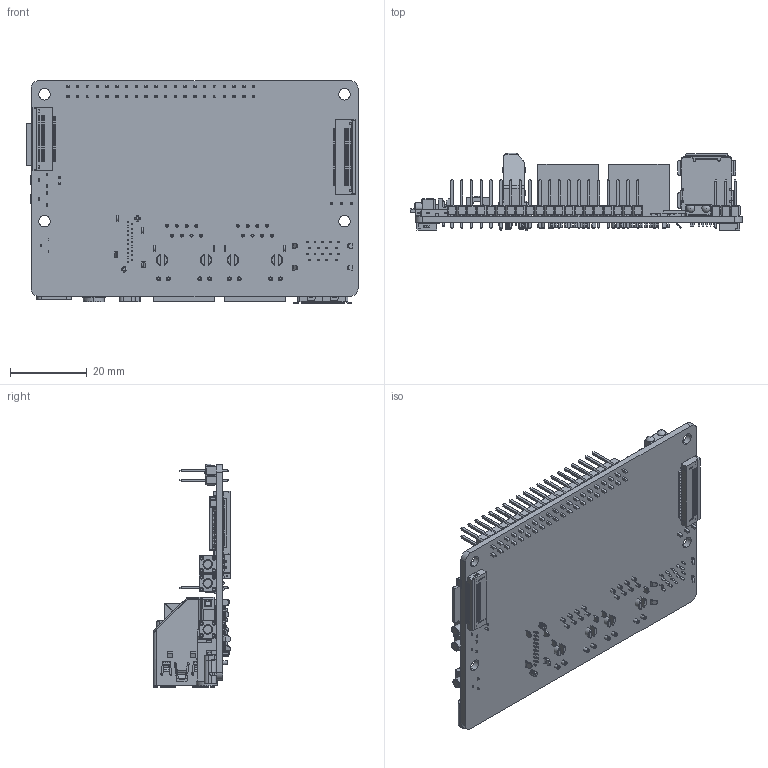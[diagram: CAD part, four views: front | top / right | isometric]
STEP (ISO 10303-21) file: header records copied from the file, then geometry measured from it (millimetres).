
FILE_DESCRIPTION (( 'STEP AP214' ), '1' );
FILE_NAME ('LubanCat 1 N PCB3D.STEP', '2022-12-22T08:21:25', ( '' ), ( '' ), 'SwSTEP 2.0', 'SolidWorks 2021', '' );
FILE_SCHEMA (( 'AUTOMOTIVE_DESIGN' ));
Length unit declared in the file: millimetre
Products named in the file (19): PCB; 边三脚侧插侧按按键6mm; 嫉儂釱赽; x05a20l30t; ZH 2P 脣璃1.5MM; USB3.0+2.0橙晚釱赽 錨璃; TYPE-C 譫釱 16P 泂え 錨璃; 72r3759_2007435-1; SD縐釱mini; IRM-v838M3 綻俋泂え; 聆泂LED; 3PIN; HR911105A; x05a20l24t; User Library-header-2.54mm-10x2_User Library-1x2 TH Pitch 2_54mm; RTL8821CUB; 边三脚侧插侧按按键254gf; LubanCat 1 N PCB3D; SD縐
Assembly tree (21 placements, depth 2):
  LubanCat 1 N PCB3D
    PCB
    IRM-v838M3 綻俋泂え
    聆泂LED  x2
    HR911105A  x2
    72r3759_2007435-1
    SD縐釱mini
    边三脚侧插侧按按键254gf  x2
    User Library-header-2.54mm-10x2_User Library-1x2 TH Pitch 2_54mm
    SD縐
    边三脚侧插侧按按键6mm
    TYPE-C 譫釱 16P 泂え 錨璃
    嫉儂釱赽
    USB3.0+2.0橙晚釱赽 錨璃
    RTL8821CUB
    ZH 2P 脣璃1.5MM
    3PIN
    x05a20l24t
    x05a20l30t
Bounding box: 86.3 x 20.15 x 58.22 mm (x, y, z)
Volume: 18267.3 mm3; surface area: 28874.6 mm2
Topology: 39 solids, 125 shells, 7544 faces, 20849 edges, 13465 vertices
Faces by surface type: plane 5695, cylinder 1376, bspline 316, cone 90, torus 36, sphere 31
Entity records: 269832 total; most frequent: CARTESIAN_POINT 64742, ORIENTED_EDGE 38402, DIRECTION 32354, EDGE_CURVE 19308, LINE 15568, VECTOR 15568, VERTEX_POINT 12503, AXIS2_PLACEMENT_3D 8393
